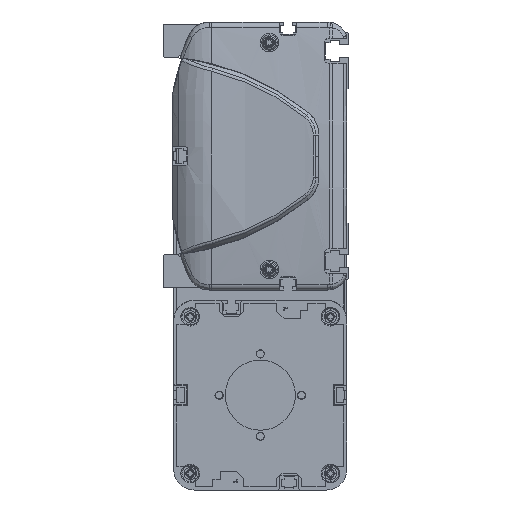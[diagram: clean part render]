
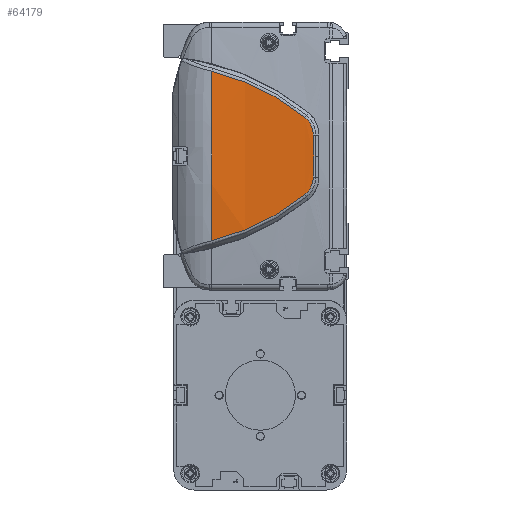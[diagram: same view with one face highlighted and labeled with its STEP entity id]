
A CAD part, left-side view. The second image highlights one B-rep face of the part: STEP entity #64179.
In plain terms, the highlighted cylindrical face has radius 500 mm (diameter 1000 mm), a partial arc.
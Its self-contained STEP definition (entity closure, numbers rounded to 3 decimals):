
#60428=CARTESIAN_POINT('',(-814.,66.962,0.));
#60429=DIRECTION('',(0.,-1.,0.));
#60430=DIRECTION('',(-0.997,0.,0.082));
#60431=AXIS2_PLACEMENT_3D('',#60428,#60429,#60430);
#61315=CARTESIAN_POINT('',(-1313.648,21.913,
-18.759));
#61316=CARTESIAN_POINT('',(-1313.449,28.504,
-24.058));
#61317=CARTESIAN_POINT('',(-1312.934,42.795,
-33.27));
#61318=CARTESIAN_POINT('',(-1312.471,58.756,
-39.127));
#61319=CARTESIAN_POINT('',(-1312.306,66.962,
-41.121));
#61321=CARTESIAN_POINT('',(-1312.306,66.962,
41.121));
#61322=CARTESIAN_POINT('',(-1312.471,58.756,
39.127));
#61323=CARTESIAN_POINT('',(-1312.934,42.795,
33.27));
#61324=CARTESIAN_POINT('',(-1313.449,28.504,
24.058));
#61325=CARTESIAN_POINT('',(-1313.648,21.913,
18.759));
#61327=CARTESIAN_POINT('',(-1313.648,21.913,
18.759));
#61328=CARTESIAN_POINT('',(-1313.686,20.635,
17.736));
#61329=CARTESIAN_POINT('',(-1313.779,18.536,
15.107));
#61330=CARTESIAN_POINT('',(-1313.863,17.752,
11.827));
#61331=CARTESIAN_POINT('',(-1313.896,17.724,
10.178));
#61333=CARTESIAN_POINT('',(-1313.896,17.724,
10.178));
#61334=CARTESIAN_POINT('',(-1313.92,17.707,
9.026));
#61335=CARTESIAN_POINT('',(-1313.959,17.667,
6.736));
#61336=CARTESIAN_POINT('',(-1313.993,17.58,
3.342));
#61337=CARTESIAN_POINT('',(-1314.,17.498,
1.109));
#61338=CARTESIAN_POINT('',(-1314.,17.449,
0.));
#61340=CARTESIAN_POINT('',(-1314.,17.449,
0.));
#61341=CARTESIAN_POINT('',(-1314.,17.498,
-1.109));
#61342=CARTESIAN_POINT('',(-1313.993,17.58,
-3.342));
#61343=CARTESIAN_POINT('',(-1313.959,17.667,
-6.735));
#61344=CARTESIAN_POINT('',(-1313.92,17.707,
-9.028));
#61345=CARTESIAN_POINT('',(-1313.896,17.724,
-10.18));
#61347=CARTESIAN_POINT('',(-1313.896,17.724,
-10.18));
#61348=CARTESIAN_POINT('',(-1313.863,17.752,
-11.828));
#61349=CARTESIAN_POINT('',(-1313.779,18.537,
-15.109));
#61350=CARTESIAN_POINT('',(-1313.686,20.635,
-17.736));
#61351=CARTESIAN_POINT('',(-1313.648,21.913,
-18.759));
#62001=VERTEX_POINT('',#61315);
#62002=VERTEX_POINT('',#61319);
#62003=CARTESIAN_POINT('',(-1312.306,66.962,
41.121));
#62004=VERTEX_POINT('',#62003);
#62005=VERTEX_POINT('',#61325);
#62006=VERTEX_POINT('',#61331);
#62007=VERTEX_POINT('',#61338);
#62008=VERTEX_POINT('',#61345);
#64160=CARTESIAN_POINT('',(-814.,8.606,0.));
#64161=DIRECTION('',(0.,1.,0.));
#64162=DIRECTION('',(1.,0.,0.));
#64163=AXIS2_PLACEMENT_3D('',#64160,#64161,#64162);
#64164=CYLINDRICAL_SURFACE('',#64163,500.);
#64166=ORIENTED_EDGE('',*,*,#64165,.T.);
#64167=ORIENTED_EDGE('',*,*,#62803,.F.);
#64169=ORIENTED_EDGE('',*,*,#64168,.T.);
#64171=ORIENTED_EDGE('',*,*,#64170,.T.);
#64173=ORIENTED_EDGE('',*,*,#64172,.T.);
#64175=ORIENTED_EDGE('',*,*,#64174,.T.);
#64176=ORIENTED_EDGE('',*,*,#64150,.T.);
#64177=EDGE_LOOP('',(#64166,#64167,#64169,#64171,#64173,#64175,#64176));
#64178=FACE_OUTER_BOUND('',#64177,.F.);
#64179=ADVANCED_FACE('',(#64178),#64164,.T.);
#60432=CIRCLE('',#60431,500.);
#61320=B_SPLINE_CURVE_WITH_KNOTS('',3,(#61315,#61316,#61317,#61318,#61319),
.UNSPECIFIED.,.F.,.F.,(4,1,4),(0.,0.5,1.),.UNSPECIFIED.);
#61326=B_SPLINE_CURVE_WITH_KNOTS('',3,(#61321,#61322,#61323,#61324,#61325),
.UNSPECIFIED.,.F.,.F.,(4,1,4),(0.,0.5,1.),.UNSPECIFIED.);
#61332=B_SPLINE_CURVE_WITH_KNOTS('',3,(#61327,#61328,#61329,#61330,#61331),
.UNSPECIFIED.,.F.,.F.,(4,1,4),(0.,0.5,1.),.UNSPECIFIED.);
#61339=B_SPLINE_CURVE_WITH_KNOTS('',3,(#61333,#61334,#61335,#61336,#61337,
#61338),.UNSPECIFIED.,.F.,.F.,(4,1,1,4),(0.,0.333,
0.667,1.),.UNSPECIFIED.);
#61346=B_SPLINE_CURVE_WITH_KNOTS('',3,(#61340,#61341,#61342,#61343,#61344,
#61345),.UNSPECIFIED.,.F.,.F.,(4,1,1,4),(0.,0.333,
0.667,1.),.UNSPECIFIED.);
#61352=B_SPLINE_CURVE_WITH_KNOTS('',3,(#61347,#61348,#61349,#61350,#61351),
.UNSPECIFIED.,.F.,.F.,(4,1,4),(0.,0.5,1.),.UNSPECIFIED.);
#62803=EDGE_CURVE('',#62004,#62002,#60432,.T.);
#64150=EDGE_CURVE('',#62008,#62001,#61352,.T.);
#64165=EDGE_CURVE('',#62001,#62002,#61320,.T.);
#64168=EDGE_CURVE('',#62004,#62005,#61326,.T.);
#64170=EDGE_CURVE('',#62005,#62006,#61332,.T.);
#64172=EDGE_CURVE('',#62006,#62007,#61339,.T.);
#64174=EDGE_CURVE('',#62007,#62008,#61346,.T.);
